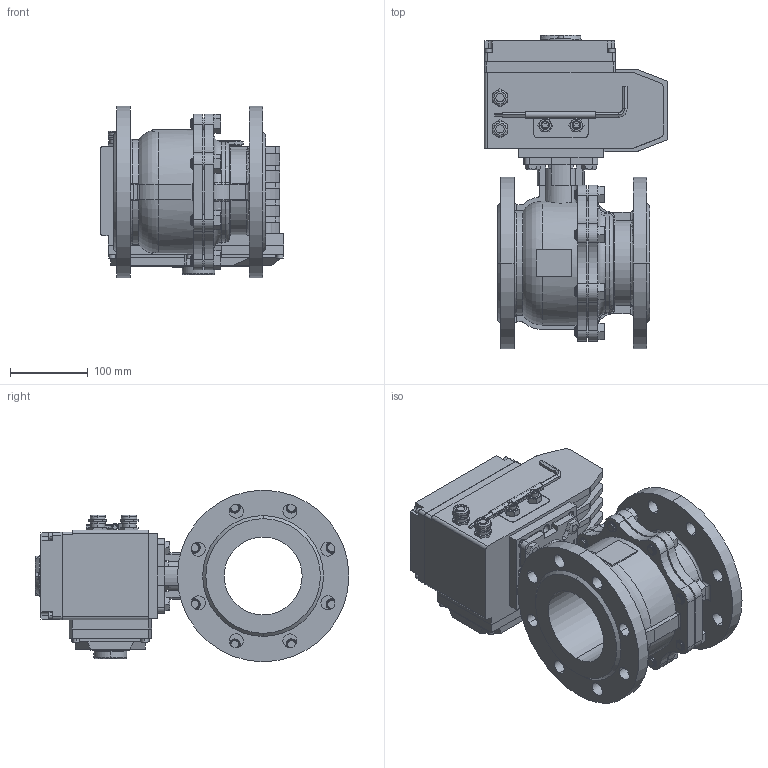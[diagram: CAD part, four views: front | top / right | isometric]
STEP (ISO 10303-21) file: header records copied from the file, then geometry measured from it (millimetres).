
FILE_DESCRIPTION((''),'2;1');
FILE_NAME('BV-22F_EAR_T_ASM','2025-03-03T',('USER'),(''),'PRO/ENGINEER BY PARAMETRIC TECHNOLOGY CORPORATION, 2011220','PRO/ENGINEER BY PARAMETRIC TECHNOLOGY CORPORATION, 2011220','');
FILE_SCHEMA(('CONFIG_CONTROL_DESIGN'));
Length unit declared in the file: millimetre
Products named in the file (15): KORPUS_KRAN_FL; BOLT_M14X30; SB_KRAN_FL_ASM; DET_1; V-11738-M5; V-11738-M4; DET_2; KREPLENIE; KLUCH; DET_3; G-5915-M10; ELECTROPRIVOD_ASM; ELECTROPRIVOD_WITH_DISPLAY_ASM; B-7798-M10-30; BV-22F_EAR_T_ASM
Assembly tree (37 placements, depth 4):
  BV-22F_EAR_T_ASM
    SB_KRAN_FL_ASM
      KORPUS_KRAN_FL
      BOLT_M14X30  x8
    ELECTROPRIVOD_WITH_DISPLAY_ASM
      ELECTROPRIVOD_ASM
        DET_1
        V-11738-M5  x10
        V-11738-M4  x4
        DET_2
        KREPLENIE
        KLUCH
        DET_3
        G-5915-M10  x2
    B-7798-M10-30  x4
Bounding box: 235 x 402.5 x 220 mm (x, y, z)
Volume: 6907215.8 mm3; surface area: 739615 mm2
Topology: 34 solids, 86 shells, 1628 faces, 4216 edges, 2758 vertices
Faces by surface type: plane 977, cylinder 515, cone 90, torus 26, bspline 20
Entity records: 40895 total; most frequent: CARTESIAN_POINT 8591, DIRECTION 6719, ORIENTED_EDGE 6520, EDGE_CURVE 3320, VECTOR 2311, LINE 2311, AXIS2_PLACEMENT_3D 2204, VERTEX_POINT 2186
